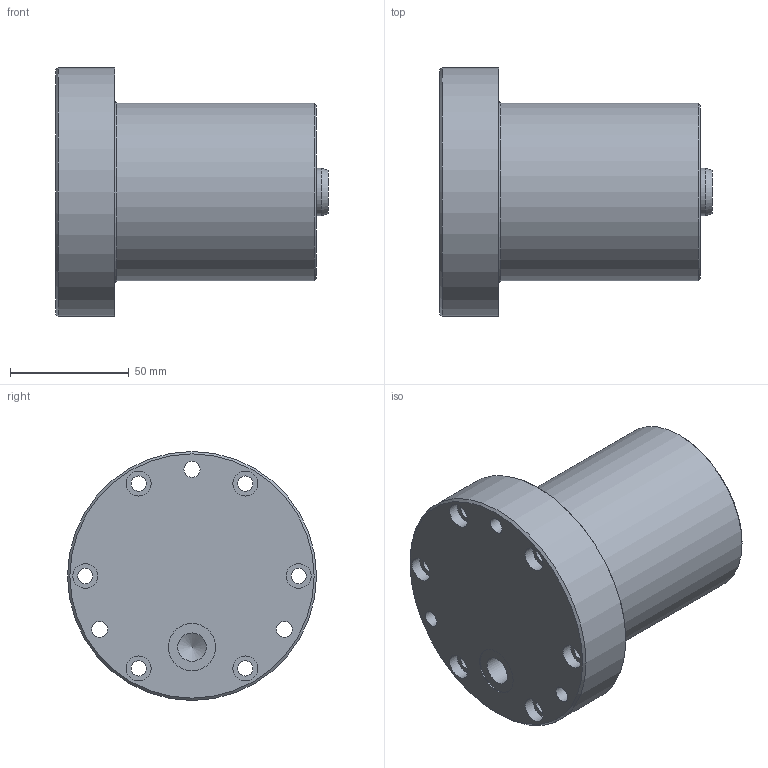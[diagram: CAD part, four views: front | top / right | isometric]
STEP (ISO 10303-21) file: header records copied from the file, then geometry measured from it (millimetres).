
FILE_DESCRIPTION( ( 'Unknown' ), '1' );
FILE_NAME( 'F:/JAKOB-STEP+IGES-Dateien/STEP-Dateien/ZDF/ZDFu 2500.stp', 'Unknown', ( 'Unknown' ), ( 'Unknown' ), 'XStep 1.0', 'Unknown', ' ' );
FILE_SCHEMA( ( 'CONFIG_CONTROL_DESIGN' ) );
Length unit declared in the file: millimetre
Products named in the file (1): 1
Bounding box: 115 x 105 x 105 mm (x, y, z)
Volume: 582005 mm3; surface area: 50508.7 mm2
Topology: 1 solids, 1 shells, 38 faces, 79 edges, 52 vertices
Faces by surface type: cylinder 20, plane 11, cone 6, torus 1
Full cylindrical faces by diameter (mm): 6.4 x6, 6.8 x3, 10.5 x6, 12 x1, 20 x2, 75 x1, 105 x1
Entity records: 928 total; most frequent: DIRECTION 170, CARTESIAN_POINT 132, EDGE_LOOP 92, ORIENTED_EDGE 92, AXIS2_PLACEMENT_3D 85, FACE_OUTER_BOUND 59, VERTEX_POINT 47, EDGE_CURVE 46
